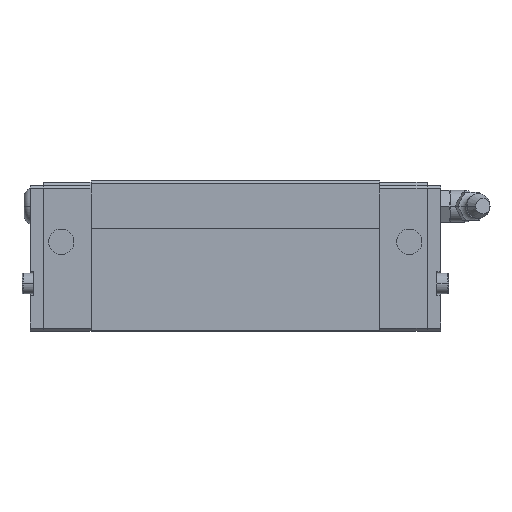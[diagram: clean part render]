
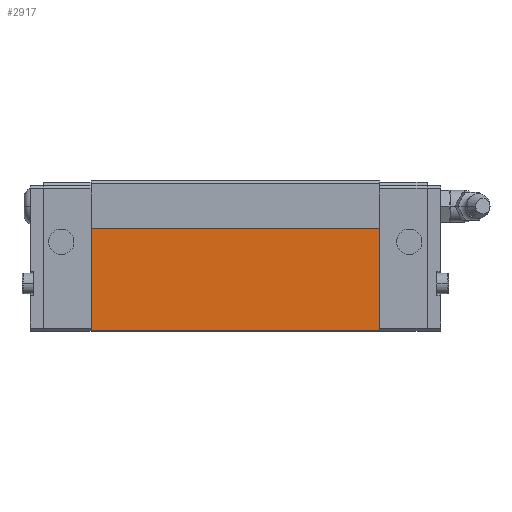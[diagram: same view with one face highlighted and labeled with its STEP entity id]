
A CAD part, left-side view. The second image highlights one B-rep face of the part: STEP entity #2917.
In plain terms, the highlighted planar face has unit normal (-1, 0, 0).
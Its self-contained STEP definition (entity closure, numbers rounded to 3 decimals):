
#2183=EDGE_CURVE('',#3099,#3447,#5292,.T.);
#2637=VERTEX_POINT('',#5795);
#2917=ADVANCED_FACE('',(#6110),#6111,.T.);
#3085=EDGE_CURVE('',#2637,#3447,#6299,.T.);
#3099=VERTEX_POINT('',#6314);
#3447=VERTEX_POINT('',#6693);
#3821=EDGE_CURVE('',#2637,#4289,#7106,.T.);
#4289=VERTEX_POINT('',#7632);
#4327=EDGE_CURVE('',#4289,#3099,#7673,.T.);
#5292=LINE('',#9032,#9033);
#5795=CARTESIAN_POINT('',(-42.2,20.5,44.0));
#6110=FACE_OUTER_BOUND('',#10238,.T.);
#6111=PLANE('',#10239);
#6299=LINE('',#10541,#10542);
#6314=CARTESIAN_POINT('',(-42.2,117.5,9.7));
#6693=CARTESIAN_POINT('',(-42.2,117.5,44.0));
#7106=LINE('',#11781,#11782);
#7632=CARTESIAN_POINT('',(-42.2,20.5,9.7));
#7673=LINE('',#12574,#12575);
#9032=CARTESIAN_POINT('',(-42.2,117.5,24.375));
#9033=VECTOR('',#13686,1.0);
#10238=EDGE_LOOP('',(#14703,#14704,#14705,#14706));
#10239=AXIS2_PLACEMENT_3D('',#14707,#14708,#14709);
#10541=CARTESIAN_POINT('',(-42.2,69.0,44.0));
#10542=VECTOR('',#14925,1.0);
#11781=CARTESIAN_POINT('',(-42.2,20.5,24.375));
#11782=VECTOR('',#15730,1.0);
#12574=CARTESIAN_POINT('',(-42.2,93.25,9.7));
#12575=VECTOR('',#16388,1.0);
#13686=DIRECTION('',(0.0,0.0,1.0));
#14703=ORIENTED_EDGE('',*,*,#2183,.F.);
#14704=ORIENTED_EDGE('',*,*,#4327,.F.);
#14705=ORIENTED_EDGE('',*,*,#3821,.F.);
#14706=ORIENTED_EDGE('',*,*,#3085,.T.);
#14707=CARTESIAN_POINT('',(-42.2,69.0,14.0));
#14708=DIRECTION('',(-1.0,0.0,0.0));
#14709=DIRECTION('',(0.0,0.0,1.0));
#14925=DIRECTION('',(0.0,1.0,0.0));
#15730=DIRECTION('',(-0.0,-0.0,-1.0));
#16388=DIRECTION('',(0.0,1.0,-0.0));
